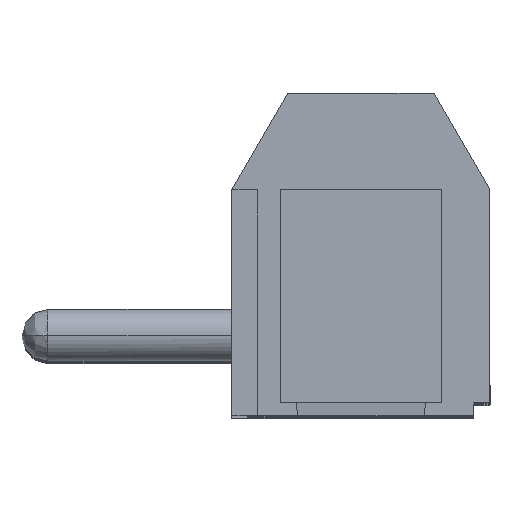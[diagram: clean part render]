
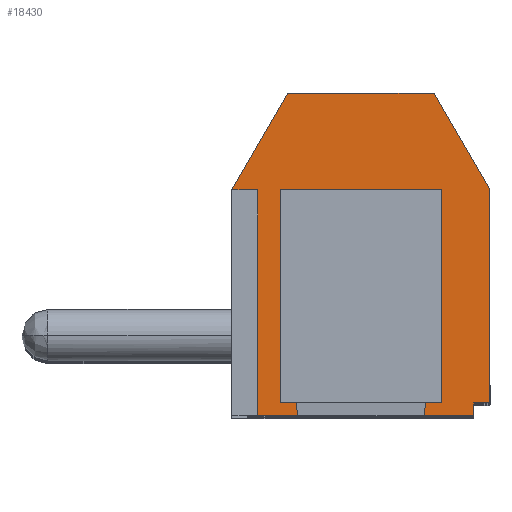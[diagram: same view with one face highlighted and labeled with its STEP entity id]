
A CAD part, top view. The second image highlights one B-rep face of the part: STEP entity #18430.
In plain terms, the highlighted planar face has unit normal (0, 0, 1).
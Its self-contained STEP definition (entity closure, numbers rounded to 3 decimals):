
#4920 = DIRECTION ( 'NONE',  ( 0., 1., 0. ) ) ;
#4921 = VECTOR ( 'NONE', #4920, 1000. ) ;
#4922 = CARTESIAN_POINT ( 'NONE',  ( 3.729, -0.096, -5. ) ) ;
#4923 = LINE ( 'NONE', #4922, #4921 ) ;
#4924 = CARTESIAN_POINT ( 'NONE',  ( 3.729, 1.904, -5. ) ) ;
#5235 = DIRECTION ( 'NONE',  ( -0.5, 0.866, 0. ) ) ;
#5236 = VECTOR ( 'NONE', #5235, 1000. ) ;
#5237 = CARTESIAN_POINT ( 'NONE',  ( 3.729, 1.904, -5. ) ) ;
#5238 = LINE ( 'NONE', #5237, #5236 ) ;
#5239 = CARTESIAN_POINT ( 'NONE',  ( 1.997, 4.904, -5. ) ) ;
#10983 = CARTESIAN_POINT ( 'NONE',  ( -3.471, 1.904, -5. ) ) ;
#10984 = DIRECTION ( 'NONE',  ( 0., -1., 0. ) ) ;
#10985 = VECTOR ( 'NONE', #10984, 1000. ) ;
#10986 = CARTESIAN_POINT ( 'NONE',  ( -3.471, -0.096, -5. ) ) ;
#10992 = LINE ( 'NONE', #10986, #10985 ) ;
#11044 = DIRECTION ( 'NONE',  ( 1., 0., 0. ) ) ;
#11045 = VECTOR ( 'NONE', #11044, 1000. ) ;
#11046 = CARTESIAN_POINT ( 'NONE',  ( -3.871, 1.904, -5. ) ) ;
#11047 = LINE ( 'NONE', #11046, #11045 ) ;
#11048 = CARTESIAN_POINT ( 'NONE',  ( -4.271, 1.904, -5. ) ) ;
#11049 = DIRECTION ( 'NONE',  ( 0.5, 0.866, 0. ) ) ;
#11050 = VECTOR ( 'NONE', #11049, 1000. ) ;
#11051 = CARTESIAN_POINT ( 'NONE',  ( -3.405, 3.404, -5. ) ) ;
#11052 = LINE ( 'NONE', #11051, #11050 ) ;
#11053 = CARTESIAN_POINT ( 'NONE',  ( -2.539, 4.904, -5. ) ) ;
#11054 = DIRECTION ( 'NONE',  ( 1., 0., 0. ) ) ;
#11055 = VECTOR ( 'NONE', #11054, 1000. ) ;
#11056 = CARTESIAN_POINT ( 'NONE',  ( 1.997, 4.904, -5. ) ) ;
#11057 = LINE ( 'NONE', #11056, #11055 ) ;
#11087 = DIRECTION ( 'NONE',  ( 1., 0., 0. ) ) ;
#11088 = DIRECTION ( 'NONE',  ( 0., 0., 1. ) ) ;
#11089 = CARTESIAN_POINT ( 'NONE',  ( -4.271, -5.096, -5. ) ) ;
#11090 = AXIS2_PLACEMENT_3D ( 'NONE', #11089, #11088, #11087 ) ;
#11091 = PLANE ( 'NONE',  #11090 ) ;
#11092 = FACE_OUTER_BOUND ( 'NONE', #18435, .T. ) ;
#11093 = FACE_BOUND ( 'NONE', #18369, .T. ) ;
#14481 = VERTEX_POINT ( 'NONE', #25940 ) ;
#14500 = EDGE_CURVE ( 'NONE', #14504, #14517, #25984, .T. ) ;
#14504 = VERTEX_POINT ( 'NONE', #25970 ) ;
#14517 = VERTEX_POINT ( 'NONE', #26004 ) ;
#14552 = EDGE_CURVE ( 'NONE', #14556, #14504, #26130, .T. ) ;
#14556 = VERTEX_POINT ( 'NONE', #26124 ) ;
#14595 = EDGE_CURVE ( 'NONE', #14517, #14481, #26182, .T. ) ;
#14640 = VERTEX_POINT ( 'NONE', #26231 ) ;
#14641 = EDGE_CURVE ( 'NONE', #14640, #14644, #26229, .T. ) ;
#14644 = VERTEX_POINT ( 'NONE', #26270 ) ;
#14796 = VERTEX_POINT ( 'NONE', #26625 ) ;
#14819 = VERTEX_POINT ( 'NONE', #26697 ) ;
#14834 = EDGE_CURVE ( 'NONE', #14644, #14796, #26680, .T. ) ;
#14841 = EDGE_CURVE ( 'NONE', #14796, #14819, #26712, .T. ) ;
#14944 = EDGE_CURVE ( 'NONE', #14819, #14640, #26963, .T. ) ;
#17023 = VERTEX_POINT ( 'NONE', #4924 ) ;
#17025 = EDGE_CURVE ( 'NONE', #14481, #17023, #4923, .T. ) ;
#17229 = VERTEX_POINT ( 'NONE', #5239 ) ;
#17231 = EDGE_CURVE ( 'NONE', #17023, #17229, #5238, .T. ) ;
#18362 = EDGE_CURVE ( 'NONE', #18363, #14556, #10992, .T. ) ;
#18363 = VERTEX_POINT ( 'NONE', #10983 ) ;
#18369 = EDGE_LOOP ( 'NONE', ( #18431, #18432, #18433, #18434 ) ) ;
#18415 = ORIENTED_EDGE ( 'NONE', *, *, #17025, .T. ) ;
#18416 = ORIENTED_EDGE ( 'NONE', *, *, #17231, .T. ) ;
#18417 = ORIENTED_EDGE ( 'NONE', *, *, #18418, .F. ) ;
#18418 = EDGE_CURVE ( 'NONE', #18419, #17229, #11057, .T. ) ;
#18419 = VERTEX_POINT ( 'NONE', #11053 ) ;
#18420 = ORIENTED_EDGE ( 'NONE', *, *, #18421, .F. ) ;
#18421 = EDGE_CURVE ( 'NONE', #18422, #18419, #11052, .T. ) ;
#18422 = VERTEX_POINT ( 'NONE', #11048 ) ;
#18423 = ORIENTED_EDGE ( 'NONE', *, *, #18424, .T. ) ;
#18424 = EDGE_CURVE ( 'NONE', #18422, #18363, #11047, .T. ) ;
#18430 = ADVANCED_FACE ( 'NONE', ( #11093, #11092 ), #11091, .T. ) ;
#18431 = ORIENTED_EDGE ( 'NONE', *, *, #14841, .T. ) ;
#18432 = ORIENTED_EDGE ( 'NONE', *, *, #14944, .T. ) ;
#18433 = ORIENTED_EDGE ( 'NONE', *, *, #14641, .T. ) ;
#18434 = ORIENTED_EDGE ( 'NONE', *, *, #14834, .T. ) ;
#18435 = EDGE_LOOP ( 'NONE', ( #18436, #18437, #18438, #18439, #18415, #18416, #18417, #18420, #18423 ) ) ;
#18436 = ORIENTED_EDGE ( 'NONE', *, *, #18362, .T. ) ;
#18437 = ORIENTED_EDGE ( 'NONE', *, *, #14552, .T. ) ;
#18438 = ORIENTED_EDGE ( 'NONE', *, *, #14500, .T. ) ;
#18439 = ORIENTED_EDGE ( 'NONE', *, *, #14595, .T. ) ;
#25940 = CARTESIAN_POINT ( 'NONE',  ( 3.729, -4.696, -5. ) ) ;
#25970 = CARTESIAN_POINT ( 'NONE',  ( 3.229, -5.096, -5. ) ) ;
#25981 = DIRECTION ( 'NONE',  ( 0., 1., 0. ) ) ;
#25982 = VECTOR ( 'NONE', #25981, 1000. ) ;
#25983 = CARTESIAN_POINT ( 'NONE',  ( 3.229, -0.096, -5. ) ) ;
#25984 = LINE ( 'NONE', #25983, #25982 ) ;
#26004 = CARTESIAN_POINT ( 'NONE',  ( 3.229, -4.696, -5. ) ) ;
#26124 = CARTESIAN_POINT ( 'NONE',  ( -3.471, -5.096, -5. ) ) ;
#26127 = DIRECTION ( 'NONE',  ( 1., 0., 0. ) ) ;
#26128 = VECTOR ( 'NONE', #26127, 1000. ) ;
#26129 = CARTESIAN_POINT ( 'NONE',  ( -0.271, -5.096, -5. ) ) ;
#26130 = LINE ( 'NONE', #26129, #26128 ) ;
#26179 = DIRECTION ( 'NONE',  ( 1., 0., 0. ) ) ;
#26180 = VECTOR ( 'NONE', #26179, 1000. ) ;
#26181 = CARTESIAN_POINT ( 'NONE',  ( -0.271, -4.696, -5. ) ) ;
#26182 = LINE ( 'NONE', #26181, #26180 ) ;
#26226 = DIRECTION ( 'NONE',  ( 1., 0., 0. ) ) ;
#26227 = VECTOR ( 'NONE', #26226, 1000. ) ;
#26228 = CARTESIAN_POINT ( 'NONE',  ( -0.271, 1.904, -5. ) ) ;
#26229 = LINE ( 'NONE', #26228, #26227 ) ;
#26231 = CARTESIAN_POINT ( 'NONE',  ( -2.771, 1.904, -5. ) ) ;
#26270 = CARTESIAN_POINT ( 'NONE',  ( 2.229, 1.904, -5. ) ) ;
#26625 = CARTESIAN_POINT ( 'NONE',  ( 2.229, -4.696, -5. ) ) ;
#26677 = DIRECTION ( 'NONE',  ( 0., -1., 0. ) ) ;
#26678 = VECTOR ( 'NONE', #26677, 1000. ) ;
#26679 = CARTESIAN_POINT ( 'NONE',  ( 2.229, -0.096, -5. ) ) ;
#26680 = LINE ( 'NONE', #26679, #26678 ) ;
#26697 = CARTESIAN_POINT ( 'NONE',  ( -2.771, -4.696, -5. ) ) ;
#26709 = DIRECTION ( 'NONE',  ( -1., 0., 0. ) ) ;
#26710 = VECTOR ( 'NONE', #26709, 1000. ) ;
#26711 = CARTESIAN_POINT ( 'NONE',  ( -0.271, -4.696, -5. ) ) ;
#26712 = LINE ( 'NONE', #26711, #26710 ) ;
#26960 = DIRECTION ( 'NONE',  ( 0., 1., 0. ) ) ;
#26961 = VECTOR ( 'NONE', #26960, 1000. ) ;
#26962 = CARTESIAN_POINT ( 'NONE',  ( -2.771, -0.096, -5. ) ) ;
#26963 = LINE ( 'NONE', #26962, #26961 ) ;
